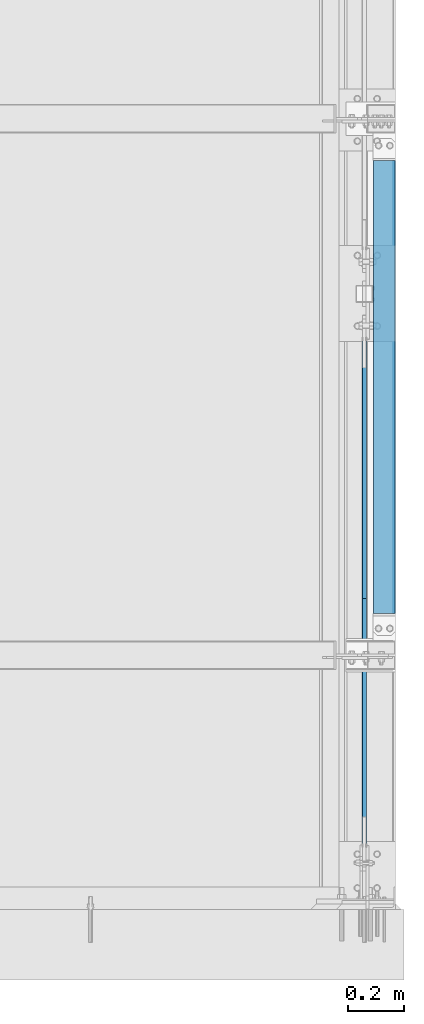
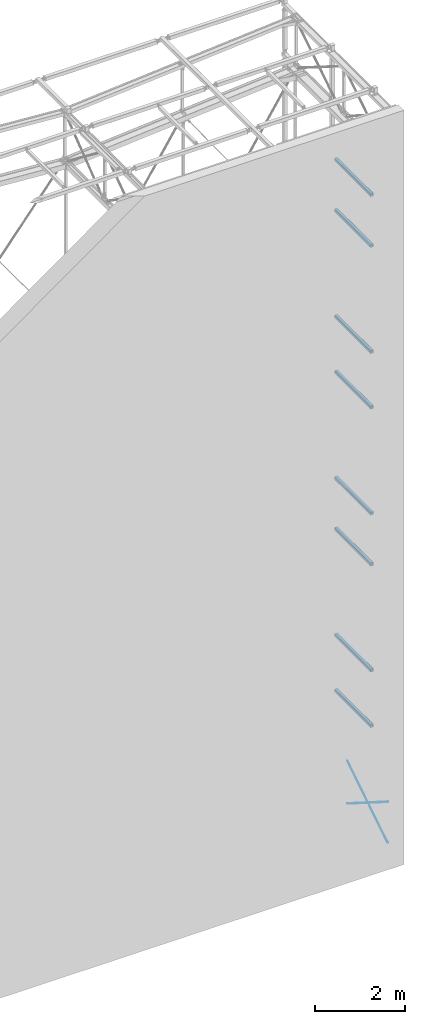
# One storey, part 40 of 271: 8 beams, 2 members, 10 elements without a shape of their own.
"""IFC2X3 building model written with IfcOpenShell, lengths in millimetres."""

from ifc_helpers import new_model, si_unit, frame, origin_with_axes, origin_2d_with_axis, place, context, subcontext, project, spatial, hollow_rectangle, circle, extrude, clip, halfspace, material, type_object, element, aggregate, save


model = new_model("IFC2X3")

# Units and contexts
model_context = context("Model", 3, precision=1e-05, world=origin_with_axes())
body_context = subcontext(model_context, "Body", "Model", "MODEL_VIEW")
ifc_project = project(units=[si_unit("LENGTHUNIT", "METRE", prefix="MILLI"), si_unit("AREAUNIT", "SQUARE_METRE"), si_unit("VOLUMEUNIT", "CUBIC_METRE"), si_unit("MASSUNIT", "GRAM", prefix="KILO"), si_unit("TIMEUNIT", "SECOND"), si_unit("PLANEANGLEUNIT", "RADIAN"), si_unit("SOLIDANGLEUNIT", "STERADIAN"), si_unit("THERMODYNAMICTEMPERATUREUNIT", "DEGREE_CELSIUS"), si_unit("LUMINOUSINTENSITYUNIT", "LUMEN")], contexts=[model_context])

# Site, building, storey
site_placement = place(None, origin_with_axes())
site = spatial("IfcSite", under=ifc_project, at=site_placement, Name="Undefined", CompositionType="ELEMENT")
building_placement = place(site_placement, origin_with_axes())
building = spatial("IfcBuilding", under=site, at=building_placement, Name="Undefined", CompositionType="ELEMENT")
storey_placement = place(building_placement, origin_with_axes())
storey = spatial("IfcBuildingStorey", under=building, at=storey_placement, Name="Undefined", CompositionType="ELEMENT", Elevation=0.0)

# Assembly, beam
assembly_1_placement = place(storey_placement, origin_with_axes())
assembly_1 = element("IfcElementAssembly", 1, at=assembly_1_placement, inside=storey, AssemblyPlace="NOTDEFINED", PredefinedType="RIGID_FRAME")
ifc_material = material(Name="STEEL/S355JR")
beam_type = type_object("IfcBeamType", Name="SHS80*3", PredefinedType="NOTDEFINED")
beam_1_placement = place(assembly_1_placement, frame((12668.3756870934, 2749.05225536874, 7154.34999990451), z_axis=(-1.0, 0.0, 1.38777878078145e-17), x_axis=(0.0, -1.0, 0.0)))
beam_1 = element("IfcBeam", 2, at=beam_1_placement, type_object=beam_type, material=ifc_material, Name="SŁUPEK", ObjectType="SHS80*3", context=body_context, shape_type="Clipping", body=[
    clip(clip(extrude(hollow_rectangle(XDim=80.0, YDim=80.0, WallThickness=3.0, InnerFilletRadius=3.0, OuterFilletRadius=6.0, at=origin_2d_with_axis()), frame((1800.00027110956, 0.0, 0.0), z_axis=(-1.0, 0.0, 1.38777878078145e-17), x_axis=(0.0, -1.0, 0.0)), (0.0, 0.0, 1.0), 1800.0), halfspace(frame((1702.00013555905, 15.0, 0.0), z_axis=(-1.0, 0.0, 1.38777878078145e-17), x_axis=(0.0, 0.0, 1.0)), True)), halfspace(frame((98.0001355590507, 15.0, 0.0), z_axis=(1.0, 0.0, 0.0), x_axis=(0.0, 0.0, -1.0)), True)),
])
aggregate(assembly_1, [beam_1])

assembly_2_placement = place(storey_placement, origin_with_axes())
assembly_2 = element("IfcElementAssembly", 3, at=assembly_2_placement, inside=storey, AssemblyPlace="NOTDEFINED", PredefinedType="RIGID_FRAME")
beam_2_placement = place(assembly_2_placement, frame((12668.3756870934, 2749.05225536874, 8534.34999990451), z_axis=(-1.0, 0.0, 1.38777878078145e-17), x_axis=(0.0, -1.0, 0.0)))
beam_2 = element("IfcBeam", 4, at=beam_2_placement, type_object=beam_type, material=ifc_material, Name="SŁUPEK", ObjectType="SHS80*3", context=body_context, shape_type="Clipping", body=[
    clip(clip(extrude(hollow_rectangle(XDim=80.0, YDim=80.0, WallThickness=3.0, InnerFilletRadius=3.0, OuterFilletRadius=6.0, at=origin_2d_with_axis()), frame((1800.00027110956, 0.0, 0.0), z_axis=(-1.0, 0.0, 1.38777878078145e-17), x_axis=(0.0, -1.0, 0.0)), (0.0, 0.0, 1.0), 1800.0), halfspace(frame((1702.00013555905, -15.0, 0.0), z_axis=(-1.0, 0.0, 1.38777878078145e-17), x_axis=(0.0, 0.0, -1.0)), True)), halfspace(frame((98.0001355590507, -15.0, 0.0), z_axis=(1.0, 0.0, 0.0), x_axis=(0.0, 0.0, 1.0)), True)),
])
aggregate(assembly_2, [beam_2])

assembly_3_placement = place(storey_placement, origin_with_axes())
assembly_3 = element("IfcElementAssembly", 5, at=assembly_3_placement, inside=storey, AssemblyPlace="NOTDEFINED", PredefinedType="RIGID_FRAME")
beam_3_placement = place(assembly_3_placement, frame((12668.3756870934, 2749.05225536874, 15794.3499999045), z_axis=(-1.0, 0.0, 1.38777878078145e-17), x_axis=(0.0, -1.0, 0.0)))
beam_3 = element("IfcBeam", 6, at=beam_3_placement, type_object=beam_type, material=ifc_material, Name="SŁUPEK", ObjectType="SHS80*3", context=body_context, shape_type="Clipping", body=[
    clip(clip(extrude(hollow_rectangle(XDim=80.0, YDim=80.0, WallThickness=3.0, InnerFilletRadius=3.0, OuterFilletRadius=6.0, at=origin_2d_with_axis()), frame((1800.00027110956, 0.0, 0.0), z_axis=(-1.0, 0.0, 1.38777878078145e-17), x_axis=(0.0, -1.0, 0.0)), (0.0, 0.0, 1.0), 1800.0), halfspace(frame((1702.00013555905, 15.0, 0.0), z_axis=(-1.0, 0.0, 1.38777878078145e-17), x_axis=(0.0, 0.0, 1.0)), True)), halfspace(frame((98.0001355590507, 15.0, 0.0), z_axis=(1.0, 0.0, 0.0), x_axis=(0.0, 0.0, -1.0)), True)),
])
aggregate(assembly_3, [beam_3])

assembly_4_placement = place(storey_placement, origin_with_axes())
assembly_4 = element("IfcElementAssembly", 7, at=assembly_4_placement, inside=storey, AssemblyPlace="NOTDEFINED", PredefinedType="RIGID_FRAME")
beam_4_placement = place(assembly_4_placement, frame((12668.3756870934, 2749.05225536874, 17174.3499999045), z_axis=(-1.0, 0.0, 1.38777878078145e-17), x_axis=(0.0, -1.0, 0.0)))
beam_4 = element("IfcBeam", 8, at=beam_4_placement, type_object=beam_type, material=ifc_material, Name="SŁUPEK", ObjectType="SHS80*3", context=body_context, shape_type="Clipping", body=[
    clip(clip(extrude(hollow_rectangle(XDim=80.0, YDim=80.0, WallThickness=3.0, InnerFilletRadius=3.0, OuterFilletRadius=6.0, at=origin_2d_with_axis()), frame((1800.00027110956, 0.0, 0.0), z_axis=(-1.0, 0.0, 1.38777878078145e-17), x_axis=(0.0, -1.0, 0.0)), (0.0, 0.0, 1.0), 1800.0), halfspace(frame((1702.00013555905, -15.0, 0.0), z_axis=(-1.0, 0.0, 1.38777878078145e-17), x_axis=(0.0, 0.0, -1.0)), True)), halfspace(frame((98.0001355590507, -15.0, 0.0), z_axis=(1.0, 0.0, 0.0), x_axis=(0.0, 0.0, 1.0)), True)),
])
aggregate(assembly_4, [beam_4])

assembly_5_placement = place(storey_placement, origin_with_axes())
assembly_5 = element("IfcElementAssembly", 9, at=assembly_5_placement, inside=storey, AssemblyPlace="NOTDEFINED", PredefinedType="RIGID_FRAME")
beam_5_placement = place(assembly_5_placement, frame((12668.3756870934, 2749.05225536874, 2771.84999990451), z_axis=(-1.0, 0.0, 1.38777878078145e-17), x_axis=(0.0, -1.0, 0.0)))
beam_5 = element("IfcBeam", 10, at=beam_5_placement, type_object=beam_type, material=ifc_material, Name="SŁUPEK", ObjectType="SHS80*3", context=body_context, shape_type="Clipping", body=[
    clip(clip(extrude(hollow_rectangle(XDim=80.0, YDim=80.0, WallThickness=3.0, InnerFilletRadius=3.0, OuterFilletRadius=6.0, at=origin_2d_with_axis()), frame((1800.00027110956, 0.0, 0.0), z_axis=(-1.0, 0.0, 1.38777878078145e-17), x_axis=(0.0, -1.0, 0.0)), (0.0, 0.0, 1.0), 1800.0), halfspace(frame((1702.00013555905, -15.0, 0.0), z_axis=(-1.0, 0.0, 1.38777878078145e-17), x_axis=(0.0, 0.0, -1.0)), True)), halfspace(frame((98.0001355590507, -15.0, 0.0), z_axis=(1.0, 0.0, 0.0), x_axis=(0.0, 0.0, 1.0)), True)),
])
aggregate(assembly_5, [beam_5])

assembly_6_placement = place(storey_placement, origin_with_axes())
assembly_6 = element("IfcElementAssembly", 11, at=assembly_6_placement, inside=storey, AssemblyPlace="NOTDEFINED", PredefinedType="RIGID_FRAME")
beam_6_placement = place(assembly_6_placement, frame((12668.3756870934, 2749.05225536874, 4276.84999990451), z_axis=(-1.0, 0.0, 1.38777878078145e-17), x_axis=(0.0, -1.0, 0.0)))
beam_6 = element("IfcBeam", 12, at=beam_6_placement, type_object=beam_type, material=ifc_material, Name="SŁUPEK", ObjectType="SHS80*3", context=body_context, shape_type="Clipping", body=[
    clip(clip(extrude(hollow_rectangle(XDim=80.0, YDim=80.0, WallThickness=3.0, InnerFilletRadius=3.0, OuterFilletRadius=6.0, at=origin_2d_with_axis()), frame((1800.00027110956, 0.0, 0.0), z_axis=(-1.0, 0.0, 1.38777878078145e-17), x_axis=(0.0, -1.0, 0.0)), (0.0, 0.0, 1.0), 1800.0), halfspace(frame((1702.00013555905, 15.0, 0.0), z_axis=(-1.0, 0.0, 1.38777878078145e-17), x_axis=(0.0, 0.0, 1.0)), True)), halfspace(frame((98.0001355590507, 15.0, 0.0), z_axis=(1.0, 0.0, 0.0), x_axis=(0.0, 0.0, -1.0)), True)),
])
aggregate(assembly_6, [beam_6])

assembly_7_placement = place(storey_placement, origin_with_axes())
assembly_7 = element("IfcElementAssembly", 13, at=assembly_7_placement, inside=storey, AssemblyPlace="NOTDEFINED", PredefinedType="RIGID_FRAME")
beam_7_placement = place(assembly_7_placement, frame((12668.3756870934, 2749.05225536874, 11411.8499999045), z_axis=(-1.0, 0.0, 1.38777878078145e-17), x_axis=(0.0, -1.0, 0.0)))
beam_7 = element("IfcBeam", 14, at=beam_7_placement, type_object=beam_type, material=ifc_material, Name="SŁUPEK", ObjectType="SHS80*3", context=body_context, shape_type="Clipping", body=[
    clip(clip(extrude(hollow_rectangle(XDim=80.0, YDim=80.0, WallThickness=3.0, InnerFilletRadius=3.0, OuterFilletRadius=6.0, at=origin_2d_with_axis()), frame((1800.00027110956, 0.0, 0.0), z_axis=(-1.0, 0.0, 1.38777878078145e-17), x_axis=(0.0, -1.0, 0.0)), (0.0, 0.0, 1.0), 1800.0), halfspace(frame((1702.00013555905, -15.0, 0.0), z_axis=(-1.0, 0.0, 1.38777878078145e-17), x_axis=(0.0, 0.0, -1.0)), True)), halfspace(frame((98.0001355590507, -15.0, 0.0), z_axis=(1.0, 0.0, 0.0), x_axis=(0.0, 0.0, 1.0)), True)),
])
aggregate(assembly_7, [beam_7])

assembly_8_placement = place(storey_placement, origin_with_axes())
assembly_8 = element("IfcElementAssembly", 15, at=assembly_8_placement, inside=storey, AssemblyPlace="NOTDEFINED", PredefinedType="RIGID_FRAME")
beam_8_placement = place(assembly_8_placement, frame((12668.3756870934, 2749.05225536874, 12916.8499999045), z_axis=(-1.0, 0.0, 1.38777878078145e-17), x_axis=(0.0, -1.0, 0.0)))
beam_8 = element("IfcBeam", 16, at=beam_8_placement, type_object=beam_type, material=ifc_material, Name="SŁUPEK", ObjectType="SHS80*3", context=body_context, shape_type="Clipping", body=[
    clip(clip(extrude(hollow_rectangle(XDim=80.0, YDim=80.0, WallThickness=3.0, InnerFilletRadius=3.0, OuterFilletRadius=6.0, at=origin_2d_with_axis()), frame((1800.00027110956, 0.0, 0.0), z_axis=(-1.0, 0.0, 1.38777878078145e-17), x_axis=(0.0, -1.0, 0.0)), (0.0, 0.0, 1.0), 1800.0), halfspace(frame((1702.00013555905, 15.0, 0.0), z_axis=(-1.0, 0.0, 1.38777878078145e-17), x_axis=(0.0, 0.0, 1.0)), True)), halfspace(frame((98.0001355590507, 15.0, 0.0), z_axis=(1.0, 0.0, 0.0), x_axis=(0.0, 0.0, -1.0)), True)),
])
aggregate(assembly_8, [beam_8])

# Assembly, member
assembly_9_placement = place(storey_placement, origin_with_axes())
assembly_9 = element("IfcElementAssembly", 17, at=assembly_9_placement, inside=storey, AssemblyPlace="NOTDEFINED", PredefinedType="RIGID_FRAME")
member_type = type_object("IfcMemberType", Name="D16", PredefinedType="NOTDEFINED")
member_1_placement = place(assembly_9_placement, frame((12597.751374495, 21.1935505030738, 1364.34999990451), z_axis=(0.0, 0.535126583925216, 0.84477188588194), x_axis=(0.0, 0.84477188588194, -0.535126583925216)))
member_1 = element("IfcMember", 18, at=member_1_placement, type_object=member_type, material=ifc_material, Name="STĘŻENIE", ObjectType="D16", context=body_context, shape_type="Clipping", body=[
    clip(clip(extrude(circle(Radius=8.0, at=origin_2d_with_axis()), frame((2554.53576995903, 1.4210854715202e-14, -1.41805221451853e-13), z_axis=(-1.0, 0.0, 1.38777878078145e-17), x_axis=(0.0, -1.0, 0.0)), (0.0, 0.0, 1.0), 2554.54), halfspace(frame((2362.51750067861, -18.0000003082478, -0.445148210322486), z_axis=(-0.999997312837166, 0.0, -0.00231825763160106), x_axis=(0.00231825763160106, 0.0, -0.999997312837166)), True)), halfspace(frame((243.804502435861, 15.9999996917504, 9.77706804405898e-12), z_axis=(1.0, 0.0, 0.0), x_axis=(0.0, 0.0, -1.0)), True)),
])
aggregate(assembly_9, [member_1])

assembly_10_placement = place(storey_placement, origin_with_axes())
assembly_10 = element("IfcElementAssembly", 19, at=assembly_10_placement, inside=storey, AssemblyPlace="NOTDEFINED", PredefinedType="RIGID_FRAME")
member_2_placement = place(assembly_10_placement, frame((12597.751374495, 2179.19355050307, 1363.34999990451), z_axis=(0.0, 0.535126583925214, -0.844771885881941), x_axis=(0.0, -0.844771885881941, -0.535126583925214)))
member_2 = element("IfcMember", 20, at=member_2_placement, type_object=member_type, material=ifc_material, Name="STĘŻENIE", ObjectType="D16", context=body_context, shape_type="Clipping", body=[
    clip(clip(extrude(circle(Radius=8.0, at=origin_2d_with_axis()), frame((2554.53576995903, 1.4210854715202e-14, -1.41805221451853e-13), z_axis=(-1.0, 0.0, 1.38777878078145e-17), x_axis=(0.0, -1.0, 0.0)), (0.0, 0.0, 1.0), 2554.54), halfspace(frame((2310.82229258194, -16.0000003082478, -0.281021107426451), z_axis=(-0.999997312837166, 0.0, 0.00231825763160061), x_axis=(-0.00231825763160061, 0.0, -0.999997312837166)), True)), halfspace(frame((190.924759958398, -18.0000003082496, -2.72493139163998e-12), z_axis=(1.0, 0.0, 0.0), x_axis=(0.0, 0.0, 1.0)), True)),
])
aggregate(assembly_10, [member_2])

save(model, "model.ifc")
